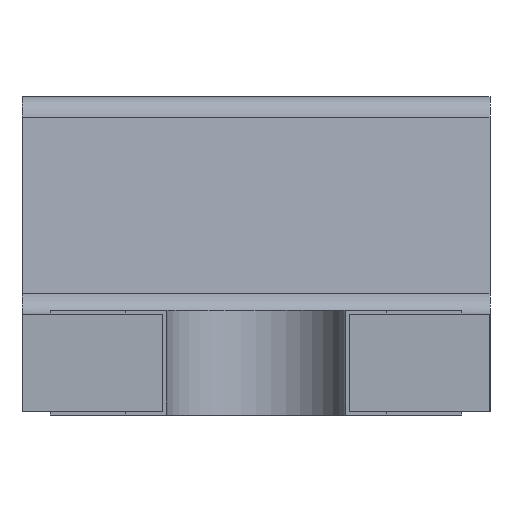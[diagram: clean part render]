
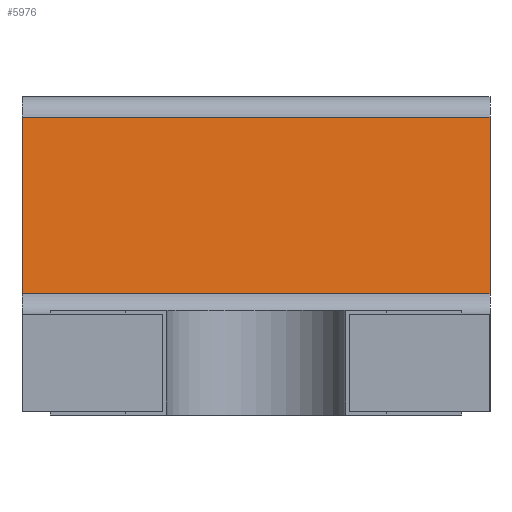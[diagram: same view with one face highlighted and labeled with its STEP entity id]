
A CAD part, left-side view. The second image highlights one B-rep face of the part: STEP entity #5976.
In plain terms, the highlighted planar face has unit normal (-0.996, 0, 0.087).
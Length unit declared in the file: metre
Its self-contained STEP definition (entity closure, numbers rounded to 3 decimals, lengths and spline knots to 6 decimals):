
#488=LINE('',#11632,#1087);
#493=LINE('',#11654,#1092);
#499=LINE('',#11666,#1098);
#500=LINE('',#11667,#1099);
#1087=VECTOR('',#8742,1.);
#1092=VECTOR('',#8761,1.);
#1098=VECTOR('',#8775,1.);
#1099=VECTOR('',#8776,1.);
#2801=ORIENTED_EDGE('',*,*,#4013,.F.);
#2802=ORIENTED_EDGE('',*,*,#4006,.T.);
#2803=ORIENTED_EDGE('',*,*,#4014,.T.);
#2804=ORIENTED_EDGE('',*,*,#3996,.T.);
#3996=EDGE_CURVE('',#4623,#4622,#488,.T.);
#4006=EDGE_CURVE('',#4633,#4631,#493,.T.);
#4013=EDGE_CURVE('',#4633,#4622,#499,.T.);
#4014=EDGE_CURVE('',#4631,#4623,#500,.T.);
#4622=VERTEX_POINT('',#11631);
#4623=VERTEX_POINT('',#11633);
#4631=VERTEX_POINT('',#11652);
#4633=VERTEX_POINT('',#11655);
#5157=EDGE_LOOP('',(#2801,#2802,#2803,#2804));
#5477=FACE_BOUND('',#5157,.T.);
#5690=PLANE('',#7861);
#5976=ADVANCED_FACE('',(#5477),#5690,.T.);
#7861=AXIS2_PLACEMENT_3D('',#11665,#8773,#8774);
#8742=DIRECTION('',(0.,-1.,0.));
#8761=DIRECTION('',(0.,1.,0.));
#8773=DIRECTION('',(-0.996,0.,0.087));
#8774=DIRECTION('',(0.087,0.,0.996));
#8775=DIRECTION('',(-0.087,0.,-0.996));
#8776=DIRECTION('',(-0.087,0.,-0.996));
#11631=CARTESIAN_POINT('',(-0.11316,-0.049528,0.009825));
#11632=CARTESIAN_POINT('',(-0.11316,-0.048903,0.009825));
#11633=CARTESIAN_POINT('',(-0.11316,-0.048278,0.009825));
#11652=CARTESIAN_POINT('',(-0.113119,-0.048278,0.010295));
#11654=CARTESIAN_POINT('',(-0.113119,-0.048278,0.010295));
#11655=CARTESIAN_POINT('',(-0.113119,-0.049528,0.010295));
#11665=CARTESIAN_POINT('',(-0.113165,-0.048903,0.00977));
#11666=CARTESIAN_POINT('',(-0.113168,-0.049528,0.009735));
#11667=CARTESIAN_POINT('',(-0.113165,-0.048278,0.00977));
